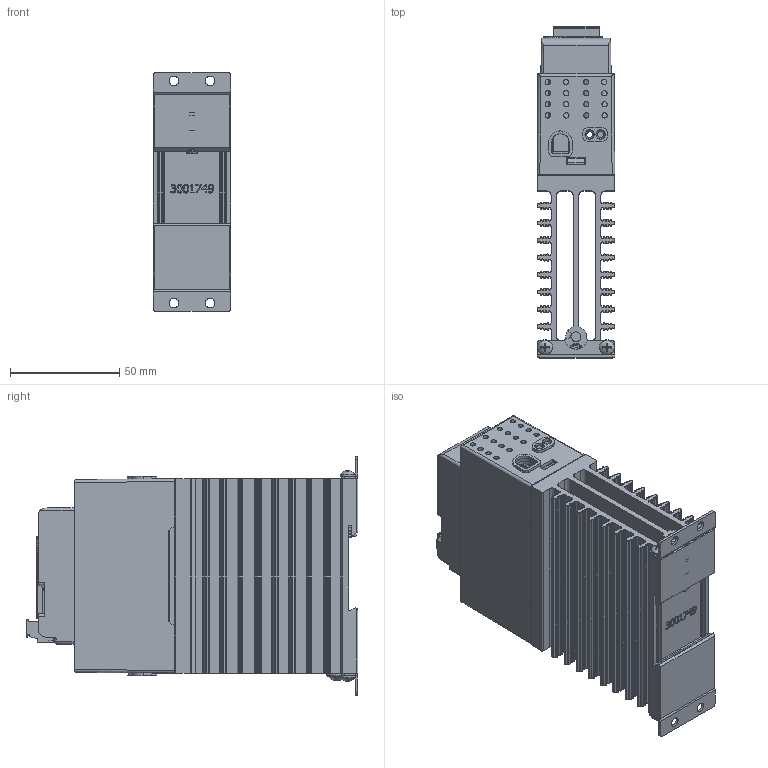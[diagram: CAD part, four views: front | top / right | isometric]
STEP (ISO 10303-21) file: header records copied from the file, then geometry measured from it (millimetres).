
FILE_DESCRIPTION(/* description */ (''),/* implementation_level */ '2;1');
FILE_NAME(/* name */ '1-phase Digital 32A w-mounting.stp',/* time_stamp */ '2024-10-29T13:42:07-05:00',/* author */ ('ErikG'),/* organization */ (''),/* preprocessor_version */ 'ST-DEVELOPER v20',/* originating_system */ 'Autodesk Inventor 2025',/* authorisation */ '');
FILE_SCHEMA (('AUTOMOTIVE_DESIGN { 1 0 10303 214 3 1 1 }'));
Products named in the file (25): 3001631e; 3001762; 1001592E; P6; fci 6 pin header OQ06120000J0G; fci 6 pin headerOQ06120000J0G half 1; fci 5 pin header OQ05120000J0G half 2; 0053035-0138-06; P4; P5; usb-c31-s-vt-cs4-bk-pp-t-r-model ADAMTECH; P2; 74990101210 (rev1); base; shielding; 3001759; 3001760; 3001755; 3001756; 3001749; 0060702-1032-0375; 3001752; 0060002-0632-0375; 0060783-0610-010.ipt; spring
Assembly tree (30 placements, depth 5):
  3001631e
    3001762
    1001592E
      P6
        fci 6 pin header OQ06120000J0G
          fci 6 pin headerOQ06120000J0G half 1
          fci 5 pin header OQ05120000J0G half 2
          0053035-0138-06
      P4
        74990101210 (rev1)
          base
          shielding
      P5
        usb-c31-s-vt-cs4-bk-pp-t-r-model ADAMTECH
      P2
        74990101210 (rev1)
          base
          shielding
    3001759
    3001760  x2
    3001755
    3001756
    3001749
    0060702-1032-0375
    3001752  x2
    0060002-0632-0375  x4
    0060783-0610-010.ipt
    spring
Bounding box: 35.56 x 151.78 x 109.22 mm (x, y, z)
Volume: 167275.6 mm3; surface area: 167783.4 mm2
Topology: 25 solids, 115 shells, 6546 faces, 17920 edges, 11713 vertices
Faces by surface type: plane 4673, cylinder 1335, cone 251, bspline 174, torus 90, sphere 23
Full cylindrical faces by diameter (mm): 0.254 x1, 0.45 x2, 0.55 x2, 0.65 x2, 1 x2, 2.3 x12, 2.54 x2, 2.642 x3, 2.95 x6, 3.277 x2, 3.505 x4, 4.318 x8, 4.826 x1, 4.917 x1, 6 x1, 6.172 x1, 6.858 x4, 7.976 x1, 9.474 x1
Entity records: 197593 total; most frequent: CARTESIAN_POINT 49592, ORIENTED_EDGE 31228, DIRECTION 29102, EDGE_CURVE 15614, LINE 11708, VECTOR 11708, VERTEX_POINT 10229, AXIS2_PLACEMENT_3D 8697
